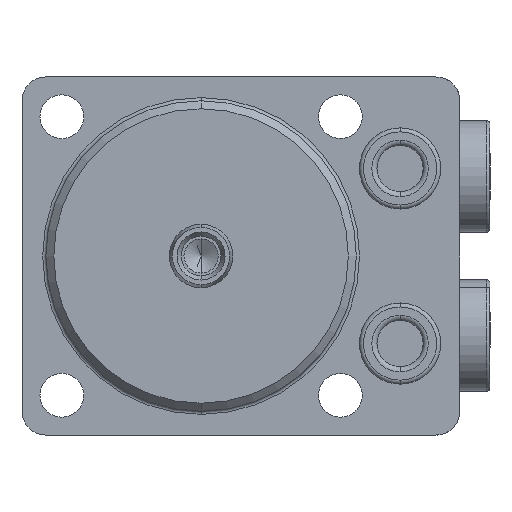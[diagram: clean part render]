
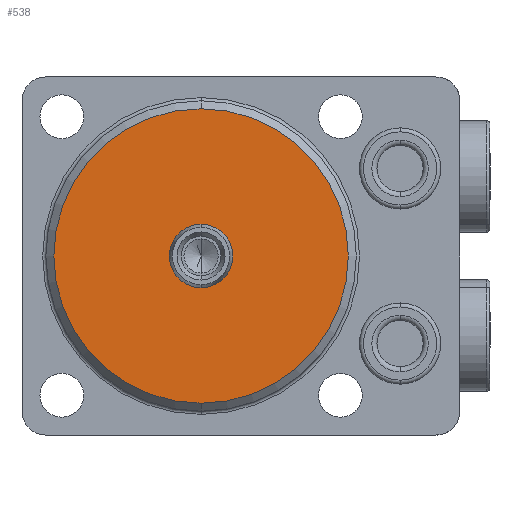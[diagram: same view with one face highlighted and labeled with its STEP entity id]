
A CAD part, front view. The second image highlights one B-rep face of the part: STEP entity #538.
In plain terms, the highlighted planar face has unit normal (0, -1, 0) as drawn and (0, 1, 0) by its records, which use the part's own axes.
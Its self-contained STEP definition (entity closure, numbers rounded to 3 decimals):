
#223=PLANE('',#3543);
#278=FACE_BOUND('',#971,.F.);
#279=FACE_BOUND('',#972,.F.);
#538=ADVANCED_FACE('',(#278,#279),#223,.T.);
#971=EDGE_LOOP('',(#2055,#2056));
#972=EDGE_LOOP('',(#2057,#2058));
#2055=ORIENTED_EDGE('',*,*,#2950,.T.);
#2056=ORIENTED_EDGE('',*,*,#2875,.T.);
#2057=ORIENTED_EDGE('',*,*,#2951,.T.);
#2058=ORIENTED_EDGE('',*,*,#2887,.T.);
#2492=VERTEX_POINT('',#5466);
#2493=VERTEX_POINT('',#5467);
#2504=VERTEX_POINT('',#5493);
#2505=VERTEX_POINT('',#5494);
#2875=EDGE_CURVE('',#2492,#2493,#3152,.T.);
#2887=EDGE_CURVE('',#2504,#2505,#3160,.T.);
#2950=EDGE_CURVE('',#2493,#2492,#3184,.T.);
#2951=EDGE_CURVE('',#2505,#2504,#3185,.T.);
#3152=CIRCLE('',#3492,4.);
#3160=CIRCLE('',#3503,18.5);
#3184=CIRCLE('',#3541,4.);
#3185=CIRCLE('',#3542,18.5);
#3492=AXIS2_PLACEMENT_3D('',#5465,#4316,#4317);
#3503=AXIS2_PLACEMENT_3D('',#5492,#4342,#4343);
#3541=AXIS2_PLACEMENT_3D('',#5625,#4452,#4453);
#3542=AXIS2_PLACEMENT_3D('',#5626,#4454,#4455);
#3543=AXIS2_PLACEMENT_3D('',#5627,#4456,#4457);
#4316=DIRECTION('',(0.,1.,0.));
#4317=DIRECTION('',(0.,0.,1.));
#4342=DIRECTION('',(0.,-1.,0.));
#4343=DIRECTION('',(0.,0.,1.));
#4452=DIRECTION('',(0.,1.,0.));
#4453=DIRECTION('',(0.,0.,1.));
#4454=DIRECTION('',(0.,-1.,0.));
#4455=DIRECTION('',(0.,0.,1.));
#4456=DIRECTION('',(0.,1.,0.));
#4457=DIRECTION('',(0.,0.,1.));
#5465=CARTESIAN_POINT('',(0.,0.,0.));
#5466=CARTESIAN_POINT('',(0.,0.,-4.));
#5467=CARTESIAN_POINT('',(0.,0.,4.));
#5492=CARTESIAN_POINT('',(0.,0.,0.));
#5493=CARTESIAN_POINT('',(0.,0.,-18.5));
#5494=CARTESIAN_POINT('',(0.,0.,18.5));
#5625=CARTESIAN_POINT('',(0.,0.,0.));
#5626=CARTESIAN_POINT('',(0.,0.,0.));
#5627=CARTESIAN_POINT('',(-22.5,0.,22.5));
